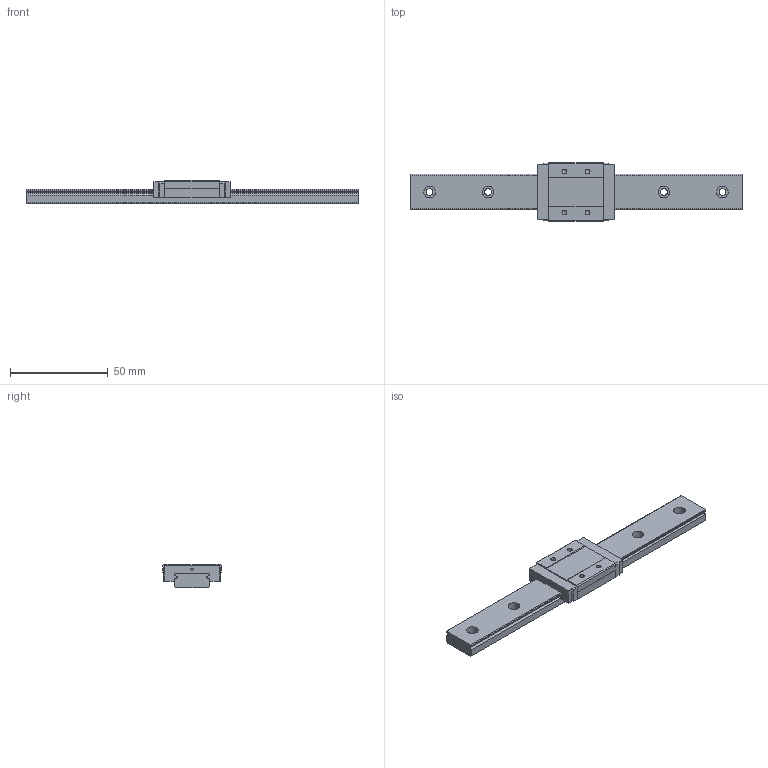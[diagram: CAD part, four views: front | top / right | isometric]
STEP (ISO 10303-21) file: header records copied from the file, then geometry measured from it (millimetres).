
FILE_DESCRIPTION((''),'2;1');
FILE_NAME('C:\Documents and Settings\土屋\My Documents\土屋移動用フォルダ\製品 (図面)\カタログ用3D\リニアガイド\EGM-W\EGM9W.stp','2015-02-21T13:15:49',('y'),(''),'Autodesk Inventor 11','Autodesk Inventor 11','');
FILE_SCHEMA(('AUTOMOTIVE_DESIGN { 1 0 10303 214 1 1 1 1 }'));
Length unit declared in the file: millimetre
Products named in the file (3): EGM9W; EGM9Wレール; EGM9Wベアリング
Assembly tree (2 placements, depth 2):
  EGM9W
    EGM9Wレール
    EGM9Wベアリング
Bounding box: 170 x 30 x 12 mm (x, y, z)
Volume: 27605.6 mm3; surface area: 13717.1 mm2
Topology: 2 solids, 2 shells, 102 faces, 266 edges, 176 vertices
Faces by surface type: plane 54, bspline 28, cylinder 20
Full cylindrical faces by diameter (mm): 1.3 x1
Entity records: 3323 total; most frequent: CARTESIAN_POINT 889, ORIENTED_EDGE 472, DIRECTION 468, EDGE_CURVE 236, VERTEX_POINT 168, VECTOR 162, LINE 162, AXIS2_PLACEMENT_3D 153
